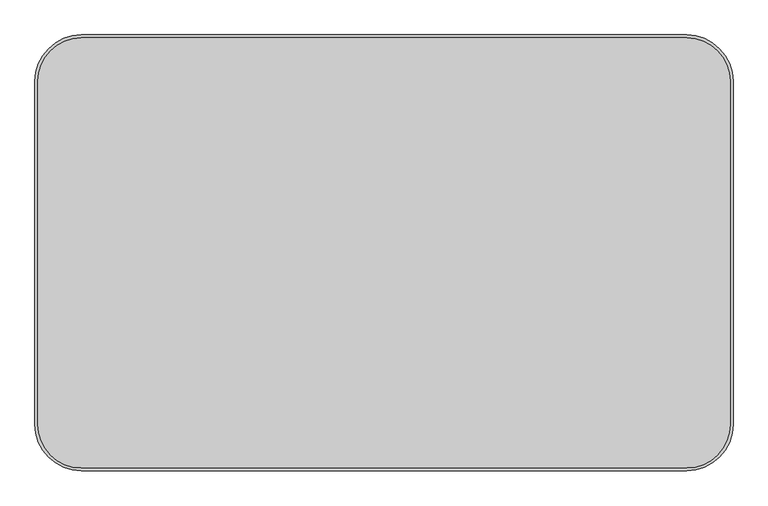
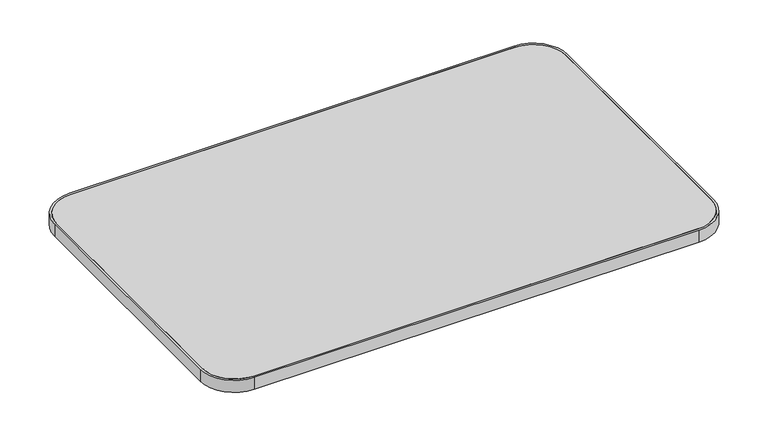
"""IFC4 building model written with IfcOpenShell, lengths in millimetres: furniture geometry, Steelcase - Answer Solution - Universal Table - Straight - 3mm Edge : 30D x 48W."""

from ifc_helpers import new_model, si_unit, point, frame, frame_2d, origin, place, context, project, spatial, polyline, circle_curve, trimmed, segment, composite_curve, outline, extrude, source, transform, mapped, element, save


def furniture_3f4145d6(model_context):
    return source(origin(), model_context, "Body", "SweptSolid", [
        extrude(outline(composite_curve([segment(polyline([(5.08, -680.72), (5.08, -81.28)]), True, "CONTINUOUS"), segment(trimmed(circle_curve(frame_2d((81.28, -81.28)), 76.2), [point((5.08, -81.28))], [point((81.28, -5.08))], False, "CARTESIAN"), True, "CONTINUOUS"), segment(polyline([(81.28, -5.08), (1137.92, -5.08)]), True, "CONTINUOUS"), segment(trimmed(circle_curve(frame_2d((1137.92, -81.28)), 76.2), [point((1137.92, -5.08))], [point((1214.12, -81.28))], False, "CARTESIAN"), True, "CONTINUOUS"), segment(polyline([(1214.12, -81.28), (1214.12, -680.72)]), True, "CONTINUOUS"), segment(trimmed(circle_curve(frame_2d((1137.92, -680.72)), 76.2), [point((1214.12, -680.72))], [point((1137.92, -756.92))], False, "CARTESIAN"), True, "CONTINUOUS"), segment(polyline([(1137.92, -756.92), (81.28, -756.92)]), True, "CONTINUOUS"), segment(trimmed(circle_curve(frame_2d((81.28, -680.72)), 76.2), [point((81.28, -756.92))], [point((5.08, -680.72))], False, "CARTESIAN"), True, "CONTINUOUS")], self_intersect=False)), frame((0.0, 0.0, 668.274), z_axis=(0.0, 0.0, 1.0), x_axis=(1.0, 0.0, 0.0)), (0.0, 0.0, 1.0), 30.0990349),
        extrude(outline(composite_curve([segment(polyline([(81.28, 0.0), (1137.92, 0.0)]), True, "CONTINUOUS"), segment(trimmed(circle_curve(frame_2d((1137.92, -81.28)), 81.28), [point((1137.92, 0.0))], [point((1219.2, -81.28))], False, "CARTESIAN"), True, "CONTINUOUS"), segment(polyline([(1219.2, -81.28), (1219.2, -680.72)]), True, "CONTINUOUS"), segment(trimmed(circle_curve(frame_2d((1137.92, -680.72)), 81.28), [point((1219.2, -680.72))], [point((1137.92, -762.0))], False, "CARTESIAN"), True, "CONTINUOUS"), segment(polyline([(1137.92, -762.0), (81.28, -762.0)]), True, "CONTINUOUS"), segment(trimmed(circle_curve(frame_2d((81.28, -680.72)), 81.28), [point((81.28, -762.0))], [point((0.0, -680.72))], False, "CARTESIAN"), True, "CONTINUOUS"), segment(polyline([(0.0, -680.72), (0.0, -81.28)]), True, "CONTINUOUS"), segment(trimmed(circle_curve(frame_2d((81.28, -81.28)), 81.28), [point((0.0, -81.28))], [point((81.28, 0.0))], False, "CARTESIAN"), True, "CONTINUOUS")], self_intersect=False), holes=[composite_curve([segment(trimmed(circle_curve(frame_2d((81.28, -81.28)), 76.2), [point((81.28, -5.08))], [point((5.08, -81.28))], True, "CARTESIAN"), True, "CONTINUOUS"), segment(polyline([(5.08, -81.28), (5.08, -680.72)]), True, "CONTINUOUS"), segment(trimmed(circle_curve(frame_2d((81.28, -680.72)), 76.2), [point((5.08, -680.72))], [point((81.28, -756.92))], True, "CARTESIAN"), True, "CONTINUOUS"), segment(polyline([(81.28, -756.92), (1137.92, -756.92)]), True, "CONTINUOUS"), segment(trimmed(circle_curve(frame_2d((1137.92, -680.72)), 76.2), [point((1137.92, -756.92))], [point((1214.12, -680.72))], True, "CARTESIAN"), True, "CONTINUOUS"), segment(polyline([(1214.12, -680.72), (1214.12, -81.28)]), True, "CONTINUOUS"), segment(trimmed(circle_curve(frame_2d((1137.92, -81.28)), 76.2), [point((1214.12, -81.28))], [point((1137.92, -5.08))], True, "CARTESIAN"), True, "CONTINUOUS"), segment(polyline([(1137.92, -5.08), (81.28, -5.08)]), True, "CONTINUOUS")], self_intersect=False)]), frame((0.0, 0.0, 668.274), z_axis=(0.0, 0.0, 1.0), x_axis=(1.0, 0.0, 0.0)), (0.0, 0.0, 1.0), 30.0990349),
    ])


if __name__ == "__main__":
    model = new_model("IFC4")
    model_context = context("Model", 3, world=origin())
    ifc_project = project(units=[si_unit("LENGTHUNIT", "METRE", prefix="MILLI")], contexts=[model_context])
    site = spatial("IfcSite", under=ifc_project)
    building = spatial("IfcBuilding", under=site)
    placement = place(None, origin())
    furniture_shape = furniture_3f4145d6(model_context)
    element("IfcFurniture", 1, ObjectType="Steelcase - Answer Solution - Universal Table - Straight - 3mm Edge : 30D x 48W", at=placement, inside=building, context=model_context, shape_type="MappedRepresentation", body=[
        mapped(furniture_shape, transform((0.0, 0.0, 0.0), x_axis=(1.0, 0.0, 0.0), y_axis=(0.0, 1.0, 0.0), z_axis=(0.0, 0.0, 1.0))),
    ])
    save(model, "model.ifc")
